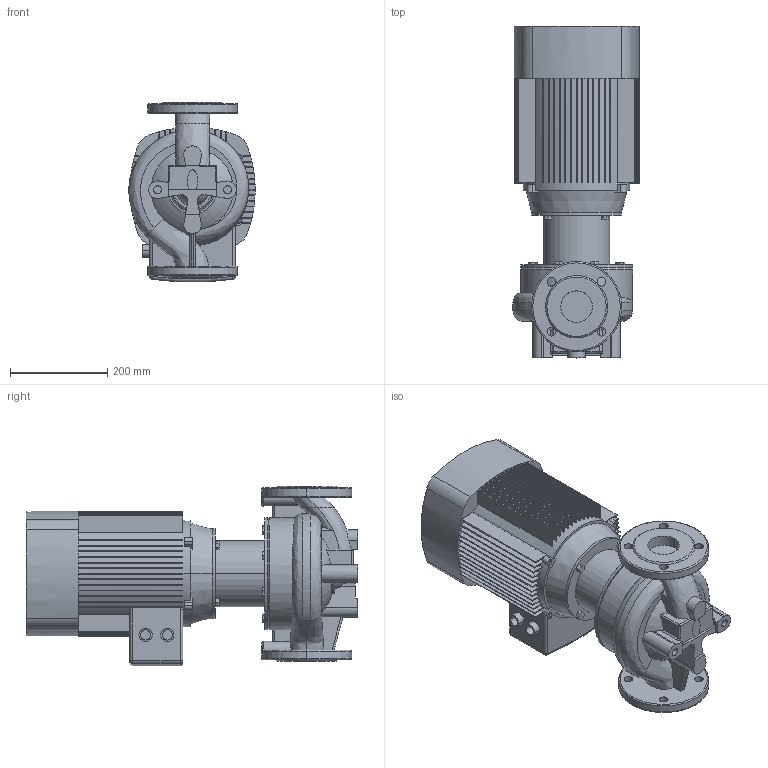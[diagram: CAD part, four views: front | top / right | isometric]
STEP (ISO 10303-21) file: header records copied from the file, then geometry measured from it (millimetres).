
FILE_DESCRIPTION (( 'STEP AP203' ), '1' );
FILE_NAME ('TD65-30G_2.STEP', '2022-05-02T18:50:50', ( '' ), ( '' ), 'SwSTEP 2.0', 'SolidWorks 2019', '' );
FILE_SCHEMA (( 'CONFIG_CONTROL_DESIGN' ));
Length unit declared in the file: millimetre
Products named in the file (4): Pr_ch 65_TD65-30G_2; Fon_65_TD65-30G_2; ED_B14_YE2-132S1-2 (5.5); TD65-30G_2
Assembly tree (3 placements, depth 2):
  TD65-30G_2
    Pr_ch 65_TD65-30G_2
    Fon_65_TD65-30G_2
    ED_B14_YE2-132S1-2 (5.5)
Bounding box: 259.41 x 682 x 369.37 mm (x, y, z)
Volume: 26180205.1 mm3; surface area: 1508846 mm2
Topology: 3 solids, 5 shells, 664 faces, 1797 edges, 1178 vertices
Faces by surface type: plane 434, cylinder 159, bspline 29, torus 25, cone 11, sphere 6
Entity records: 27764 total; most frequent: CARTESIAN_POINT 10504, ORIENTED_EDGE 3590, DIRECTION 3489, EDGE_CURVE 1795, AXIS2_PLACEMENT_3D 1233, VERTEX_POINT 1178, LINE 1023, VECTOR 1023
